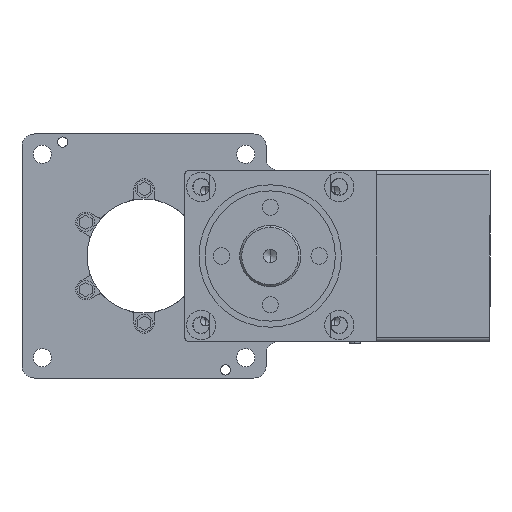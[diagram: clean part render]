
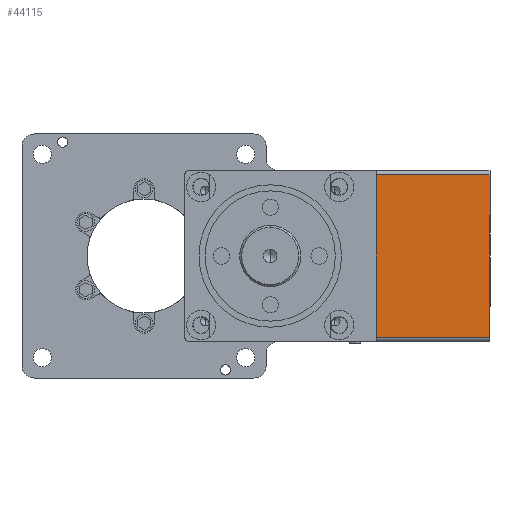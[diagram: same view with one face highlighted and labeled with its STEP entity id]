
A CAD part, front view. The second image highlights one B-rep face of the part: STEP entity #44115.
In plain terms, the highlighted planar face has unit normal (0, -1, 0) as drawn and (-1, 0, 0) by its records, which use the part's own axes.
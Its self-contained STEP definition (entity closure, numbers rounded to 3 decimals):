
#41217 = PLANE('',#41218);
#41218 = AXIS2_PLACEMENT_3D('',#41219,#41220,#41221);
#41219 = CARTESIAN_POINT('',(-1.364,-34.644,-21.));
#41220 = DIRECTION('',(0.,-1.,0.));
#41221 = DIRECTION('',(0.,-0.,-1.));
#42266 = PLANE('',#42267);
#42267 = AXIS2_PLACEMENT_3D('',#42268,#42269,#42270);
#42268 = CARTESIAN_POINT('',(-1.364,-6.644,-21.));
#42269 = DIRECTION('',(0.,-1.,0.));
#42270 = DIRECTION('',(0.,-0.,-1.));
#44115 = ADVANCED_FACE('',(#44116),#44130,.F.);
#44116 = FACE_BOUND('',#44117,.T.);
#44117 = EDGE_LOOP('',(#44118,#44153,#44176,#44204));
#44118 = ORIENTED_EDGE('',*,*,#44119,.F.);
#44119 = EDGE_CURVE('',#44120,#44122,#44124,.T.);
#44120 = VERTEX_POINT('',#44121);
#44121 = CARTESIAN_POINT('',(-43.364,-6.644,20.));
#44122 = VERTEX_POINT('',#44123);
#44123 = CARTESIAN_POINT('',(-43.364,-34.644,20.));
#44124 = SURFACE_CURVE('',#44125,(#44129,#44141),.PCURVE_S1.);
#44125 = LINE('',#44126,#44127);
#44126 = CARTESIAN_POINT('',(-43.364,-6.644,20.));
#44127 = VECTOR('',#44128,1.);
#44128 = DIRECTION('',(-0.,-1.,-0.));
#44129 = PCURVE('',#44130,#44135);
#44130 = PLANE('',#44131);
#44131 = AXIS2_PLACEMENT_3D('',#44132,#44133,#44134);
#44132 = CARTESIAN_POINT('',(-43.364,-6.644,21.));
#44133 = DIRECTION('',(1.,-0.,0.));
#44134 = DIRECTION('',(0.,0.,-1.));
#44135 = DEFINITIONAL_REPRESENTATION('',(#44136),#44140);
#44136 = LINE('',#44137,#44138);
#44137 = CARTESIAN_POINT('',(1.,0.));
#44138 = VECTOR('',#44139,1.);
#44139 = DIRECTION('',(0.,-1.));
#44140 = ( GEOMETRIC_REPRESENTATION_CONTEXT(2) 
PARAMETRIC_REPRESENTATION_CONTEXT() REPRESENTATION_CONTEXT('2D SPACE',''
  ) );
#44141 = PCURVE('',#44142,#44147);
#44142 = CYLINDRICAL_SURFACE('',#44143,1.);
#44143 = AXIS2_PLACEMENT_3D('',#44144,#44145,#44146);
#44144 = CARTESIAN_POINT('',(-42.364,-6.644,20.));
#44145 = DIRECTION('',(0.,-1.,0.));
#44146 = DIRECTION('',(0.,0.,-1.));
#44147 = DEFINITIONAL_REPRESENTATION('',(#44148),#44152);
#44148 = LINE('',#44149,#44150);
#44149 = CARTESIAN_POINT('',(4.712,0.));
#44150 = VECTOR('',#44151,1.);
#44151 = DIRECTION('',(0.,1.));
#44152 = ( GEOMETRIC_REPRESENTATION_CONTEXT(2) 
PARAMETRIC_REPRESENTATION_CONTEXT() REPRESENTATION_CONTEXT('2D SPACE',''
  ) );
#44153 = ORIENTED_EDGE('',*,*,#44154,.F.);
#44154 = EDGE_CURVE('',#44155,#44120,#44157,.T.);
#44155 = VERTEX_POINT('',#44156);
#44156 = CARTESIAN_POINT('',(-43.364,-6.644,-20.));
#44157 = SURFACE_CURVE('',#44158,(#44162,#44169),.PCURVE_S1.);
#44158 = LINE('',#44159,#44160);
#44159 = CARTESIAN_POINT('',(-43.364,-6.644,21.));
#44160 = VECTOR('',#44161,1.);
#44161 = DIRECTION('',(-0.,-0.,1.));
#44162 = PCURVE('',#44130,#44163);
#44163 = DEFINITIONAL_REPRESENTATION('',(#44164),#44168);
#44164 = LINE('',#44165,#44166);
#44165 = CARTESIAN_POINT('',(0.,0.));
#44166 = VECTOR('',#44167,1.);
#44167 = DIRECTION('',(-1.,0.));
#44168 = ( GEOMETRIC_REPRESENTATION_CONTEXT(2) 
PARAMETRIC_REPRESENTATION_CONTEXT() REPRESENTATION_CONTEXT('2D SPACE',''
  ) );
#44169 = PCURVE('',#42266,#44170);
#44170 = DEFINITIONAL_REPRESENTATION('',(#44171),#44175);
#44171 = LINE('',#44172,#44173);
#44172 = CARTESIAN_POINT('',(-42.,-42.));
#44173 = VECTOR('',#44174,1.);
#44174 = DIRECTION('',(-1.,0.));
#44175 = ( GEOMETRIC_REPRESENTATION_CONTEXT(2) 
PARAMETRIC_REPRESENTATION_CONTEXT() REPRESENTATION_CONTEXT('2D SPACE',''
  ) );
#44176 = ORIENTED_EDGE('',*,*,#44177,.F.);
#44177 = EDGE_CURVE('',#44178,#44155,#44180,.T.);
#44178 = VERTEX_POINT('',#44179);
#44179 = CARTESIAN_POINT('',(-43.364,-34.644,-20.));
#44180 = SURFACE_CURVE('',#44181,(#44185,#44192),.PCURVE_S1.);
#44181 = LINE('',#44182,#44183);
#44182 = CARTESIAN_POINT('',(-43.364,-6.644,-20.));
#44183 = VECTOR('',#44184,1.);
#44184 = DIRECTION('',(0.,1.,0.));
#44185 = PCURVE('',#44130,#44186);
#44186 = DEFINITIONAL_REPRESENTATION('',(#44187),#44191);
#44187 = LINE('',#44188,#44189);
#44188 = CARTESIAN_POINT('',(41.,0.));
#44189 = VECTOR('',#44190,1.);
#44190 = DIRECTION('',(0.,1.));
#44191 = ( GEOMETRIC_REPRESENTATION_CONTEXT(2) 
PARAMETRIC_REPRESENTATION_CONTEXT() REPRESENTATION_CONTEXT('2D SPACE',''
  ) );
#44192 = PCURVE('',#44193,#44198);
#44193 = CYLINDRICAL_SURFACE('',#44194,1.);
#44194 = AXIS2_PLACEMENT_3D('',#44195,#44196,#44197);
#44195 = CARTESIAN_POINT('',(-42.364,-6.644,-20.));
#44196 = DIRECTION('',(-0.,-1.,0.));
#44197 = DIRECTION('',(-0.,0.,-1.));
#44198 = DEFINITIONAL_REPRESENTATION('',(#44199),#44203);
#44199 = LINE('',#44200,#44201);
#44200 = CARTESIAN_POINT('',(4.712,0.));
#44201 = VECTOR('',#44202,1.);
#44202 = DIRECTION('',(0.,-1.));
#44203 = ( GEOMETRIC_REPRESENTATION_CONTEXT(2) 
PARAMETRIC_REPRESENTATION_CONTEXT() REPRESENTATION_CONTEXT('2D SPACE',''
  ) );
#44204 = ORIENTED_EDGE('',*,*,#44205,.F.);
#44205 = EDGE_CURVE('',#44122,#44178,#44206,.T.);
#44206 = SURFACE_CURVE('',#44207,(#44211,#44218),.PCURVE_S1.);
#44207 = LINE('',#44208,#44209);
#44208 = CARTESIAN_POINT('',(-43.364,-34.644,21.));
#44209 = VECTOR('',#44210,1.);
#44210 = DIRECTION('',(0.,0.,-1.));
#44211 = PCURVE('',#44130,#44212);
#44212 = DEFINITIONAL_REPRESENTATION('',(#44213),#44217);
#44213 = LINE('',#44214,#44215);
#44214 = CARTESIAN_POINT('',(0.,-28.));
#44215 = VECTOR('',#44216,1.);
#44216 = DIRECTION('',(1.,0.));
#44217 = ( GEOMETRIC_REPRESENTATION_CONTEXT(2) 
PARAMETRIC_REPRESENTATION_CONTEXT() REPRESENTATION_CONTEXT('2D SPACE',''
  ) );
#44218 = PCURVE('',#41217,#44219);
#44219 = DEFINITIONAL_REPRESENTATION('',(#44220),#44224);
#44220 = LINE('',#44221,#44222);
#44221 = CARTESIAN_POINT('',(-42.,-42.));
#44222 = VECTOR('',#44223,1.);
#44223 = DIRECTION('',(1.,0.));
#44224 = ( GEOMETRIC_REPRESENTATION_CONTEXT(2) 
PARAMETRIC_REPRESENTATION_CONTEXT() REPRESENTATION_CONTEXT('2D SPACE',''
  ) );
